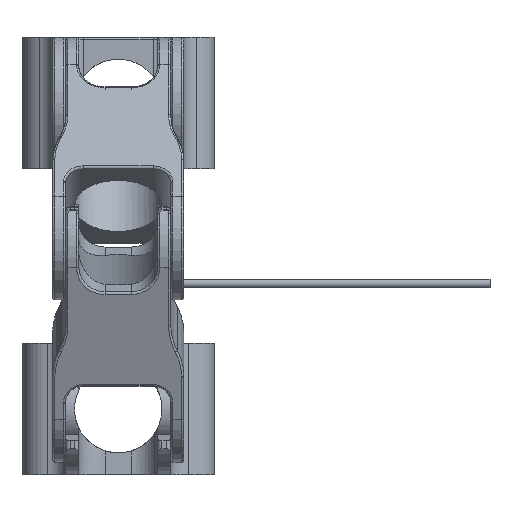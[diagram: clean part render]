
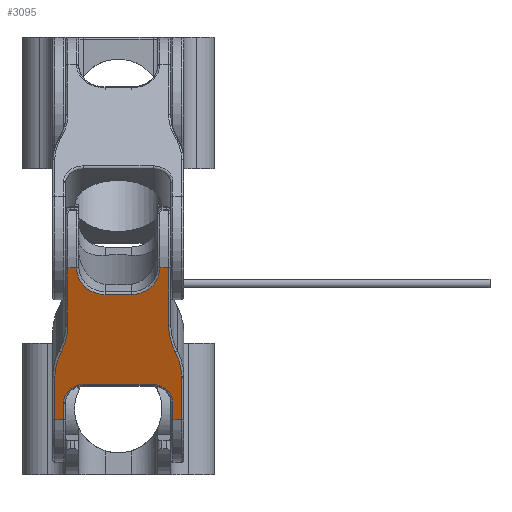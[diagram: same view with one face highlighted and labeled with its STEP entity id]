
A CAD part, front view. The second image highlights one B-rep face of the part: STEP entity #3095.
In plain terms, the highlighted planar face has unit normal (0, -0.938, -0.347) as drawn and (0, 1, 0) by its records, which use the part's own axes.
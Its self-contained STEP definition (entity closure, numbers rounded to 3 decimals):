
#2544=CARTESIAN_POINT('',(145.596,190.713,1.25));
#2545=VERTEX_POINT('',#2544);
#2588=CARTESIAN_POINT('',(143.596,190.713,1.25));
#2589=VERTEX_POINT('',#2588);
#2606=CARTESIAN_POINT('',(145.596,190.713,1.25));
#2607=DIRECTION('',(-1.0,0.0,0.0));
#2608=VECTOR('',#2607,2.);
#2609=LINE('',#2606,#2608);
#2610=EDGE_CURVE('',#2545,#2589,#2609,.T.);
#2652=CARTESIAN_POINT('',(141.346,190.713,3.5));
#2653=VERTEX_POINT('',#2652);
#2671=CARTESIAN_POINT('',(143.596,190.713,3.5));
#2672=DIRECTION('',(0.0,1.,0.0));
#2673=DIRECTION('',(-0.707,0.0,-0.707));
#2674=AXIS2_PLACEMENT_3D('',#2671,#2672,#2673);
#2675=CIRCLE('',#2674,2.25);
#2676=EDGE_CURVE('',#2589,#2653,#2675,.T.);
#2720=CARTESIAN_POINT('',(141.346,190.713,11.5));
#2721=VERTEX_POINT('',#2720);
#2738=CARTESIAN_POINT('',(141.346,190.713,3.5));
#2739=DIRECTION('',(0.0,0.0,1.0));
#2740=VECTOR('',#2739,8.);
#2741=LINE('',#2738,#2740);
#2742=EDGE_CURVE('',#2653,#2721,#2741,.T.);
#2784=CARTESIAN_POINT('',(143.596,190.713,13.75));
#2785=VERTEX_POINT('',#2784);
#2803=CARTESIAN_POINT('',(143.596,190.713,11.5));
#2804=DIRECTION('',(0.0,1.,0.0));
#2805=DIRECTION('',(-0.707,0.0,0.707));
#2806=AXIS2_PLACEMENT_3D('',#2803,#2804,#2805);
#2807=CIRCLE('',#2806,2.25);
#2808=EDGE_CURVE('',#2721,#2785,#2807,.T.);
#2852=CARTESIAN_POINT('',(145.596,190.713,13.75));
#2853=VERTEX_POINT('',#2852);
#2870=CARTESIAN_POINT('',(143.596,190.713,13.75));
#2871=DIRECTION('',(1.0,0.0,0.0));
#2872=VECTOR('',#2871,2.);
#2873=LINE('',#2870,#2872);
#2874=EDGE_CURVE('',#2785,#2853,#2873,.T.);
#2935=CARTESIAN_POINT('',(127.096,190.713,0.0));
#2936=DIRECTION('',(0.0,1.0,0.0));
#2937=DIRECTION('',(0.0,0.0,1.0));
#2938=AXIS2_PLACEMENT_3D('',#2935,#2936,#2937);
#2939=PLANE('',#2938);
#2940=ORIENTED_EDGE('',*,*,#2874,.F.);
#2941=ORIENTED_EDGE('',*,*,#2808,.F.);
#2942=ORIENTED_EDGE('',*,*,#2742,.F.);
#2943=ORIENTED_EDGE('',*,*,#2676,.F.);
#2944=ORIENTED_EDGE('',*,*,#2610,.F.);
#2945=CARTESIAN_POINT('',(145.596,190.713,0.25));
#2946=VERTEX_POINT('',#2945);
#2947=CARTESIAN_POINT('',(145.596,190.713,0.25));
#2948=DIRECTION('',(0.0,0.0,1.0));
#2949=VECTOR('',#2948,1.);
#2950=LINE('',#2947,#2949);
#2951=EDGE_CURVE('',#2946,#2545,#2950,.T.);
#2952=ORIENTED_EDGE('',*,*,#2951,.F.);
#2953=CARTESIAN_POINT('',(140.42,190.713,0.25));
#2954=VERTEX_POINT('',#2953);
#2955=CARTESIAN_POINT('',(140.42,190.713,0.25));
#2956=DIRECTION('',(1.0,0.0,0.0));
#2957=VECTOR('',#2956,5.176);
#2958=LINE('',#2955,#2957);
#2959=EDGE_CURVE('',#2954,#2946,#2958,.T.);
#2960=ORIENTED_EDGE('',*,*,#2959,.F.);
#2961=CARTESIAN_POINT('',(137.38,190.713,0.973));
#2962=VERTEX_POINT('',#2961);
#2963=CARTESIAN_POINT('',(140.42,190.713,7.));
#2964=DIRECTION('',(0.0,-1.,0.0));
#2965=DIRECTION('',(-0.231,0.0,-0.973));
#2966=AXIS2_PLACEMENT_3D('',#2963,#2964,#2965);
#2967=CIRCLE('',#2966,6.75);
#2968=EDGE_CURVE('',#2962,#2954,#2967,.T.);
#2969=ORIENTED_EDGE('',*,*,#2968,.F.);
#2970=CARTESIAN_POINT('',(134.115,190.713,1.75));
#2971=VERTEX_POINT('',#2970);
#2972=CARTESIAN_POINT('',(134.115,190.713,-5.5));
#2973=DIRECTION('',(0.0,1.0,0.0));
#2974=DIRECTION('',(0.231,0.0,0.973));
#2975=AXIS2_PLACEMENT_3D('',#2972,#2973,#2974);
#2976=CIRCLE('',#2975,7.25);
#2977=EDGE_CURVE('',#2971,#2962,#2976,.T.);
#2978=ORIENTED_EDGE('',*,*,#2977,.F.);
#2979=CARTESIAN_POINT('',(127.096,190.713,1.75));
#2980=VERTEX_POINT('',#2979);
#2981=CARTESIAN_POINT('',(127.096,190.713,1.75));
#2982=DIRECTION('',(1.0,0.0,0.0));
#2983=VECTOR('',#2982,7.02);
#2984=LINE('',#2981,#2983);
#2985=EDGE_CURVE('',#2980,#2971,#2984,.T.);
#2986=ORIENTED_EDGE('',*,*,#2985,.F.);
#2987=CARTESIAN_POINT('',(127.096,190.713,2.75));
#2988=VERTEX_POINT('',#2987);
#2989=CARTESIAN_POINT('',(127.096,190.713,1.75));
#2990=DIRECTION('',(0.0,0.0,1.0));
#2991=VECTOR('',#2990,1.);
#2992=LINE('',#2989,#2991);
#2993=EDGE_CURVE('',#2980,#2988,#2992,.T.);
#2994=ORIENTED_EDGE('',*,*,#2993,.T.);
#2995=CARTESIAN_POINT('',(127.115,190.713,2.75));
#2996=VERTEX_POINT('',#2995);
#2997=CARTESIAN_POINT('',(127.115,190.713,2.75));
#2998=DIRECTION('',(-1.0,0.0,0.));
#2999=VECTOR('',#2998,0.02);
#3000=LINE('',#2997,#2999);
#3001=EDGE_CURVE('',#2996,#2988,#3000,.T.);
#3002=ORIENTED_EDGE('',*,*,#3001,.F.);
#3003=CARTESIAN_POINT('',(130.365,190.713,6.));
#3004=VERTEX_POINT('',#3003);
#3005=CARTESIAN_POINT('',(127.115,190.713,6.));
#3006=DIRECTION('',(0.0,1.,0.0));
#3007=DIRECTION('',(0.707,0.0,-0.707));
#3008=AXIS2_PLACEMENT_3D('',#3005,#3006,#3007);
#3009=CIRCLE('',#3008,3.25);
#3010=EDGE_CURVE('',#3004,#2996,#3009,.T.);
#3011=ORIENTED_EDGE('',*,*,#3010,.F.);
#3012=CARTESIAN_POINT('',(130.365,190.713,9.));
#3013=VERTEX_POINT('',#3012);
#3014=CARTESIAN_POINT('',(130.365,190.713,9.));
#3015=DIRECTION('',(0.0,0.0,-1.0));
#3016=VECTOR('',#3015,3.);
#3017=LINE('',#3014,#3016);
#3018=EDGE_CURVE('',#3013,#3004,#3017,.T.);
#3019=ORIENTED_EDGE('',*,*,#3018,.F.);
#3020=CARTESIAN_POINT('',(127.115,190.713,12.25));
#3021=VERTEX_POINT('',#3020);
#3022=CARTESIAN_POINT('',(127.115,190.713,9.));
#3023=DIRECTION('',(0.0,1.0,0.0));
#3024=DIRECTION('',(0.707,0.0,0.707));
#3025=AXIS2_PLACEMENT_3D('',#3022,#3023,#3024);
#3026=CIRCLE('',#3025,3.25);
#3027=EDGE_CURVE('',#3021,#3013,#3026,.T.);
#3028=ORIENTED_EDGE('',*,*,#3027,.F.);
#3029=CARTESIAN_POINT('',(127.096,190.713,12.25));
#3030=VERTEX_POINT('',#3029);
#3031=CARTESIAN_POINT('',(127.096,190.713,12.25));
#3032=DIRECTION('',(1.0,0.0,0.0));
#3033=VECTOR('',#3032,0.02);
#3034=LINE('',#3031,#3033);
#3035=EDGE_CURVE('',#3030,#3021,#3034,.T.);
#3036=ORIENTED_EDGE('',*,*,#3035,.F.);
#3037=CARTESIAN_POINT('',(127.096,190.713,13.25));
#3038=VERTEX_POINT('',#3037);
#3039=CARTESIAN_POINT('',(127.096,190.713,12.25));
#3040=DIRECTION('',(0.0,0.0,1.0));
#3041=VECTOR('',#3040,1.);
#3042=LINE('',#3039,#3041);
#3043=EDGE_CURVE('',#3030,#3038,#3042,.T.);
#3044=ORIENTED_EDGE('',*,*,#3043,.T.);
#3045=CARTESIAN_POINT('',(130.115,190.713,13.25));
#3046=VERTEX_POINT('',#3045);
#3047=CARTESIAN_POINT('',(130.115,190.713,13.25));
#3048=DIRECTION('',(-1.0,0.0,0.0));
#3049=VECTOR('',#3048,3.02);
#3050=LINE('',#3047,#3049);
#3051=EDGE_CURVE('',#3046,#3038,#3050,.T.);
#3052=ORIENTED_EDGE('',*,*,#3051,.F.);
#3053=CARTESIAN_POINT('',(134.115,190.713,13.25));
#3054=VERTEX_POINT('',#3053);
#3055=CARTESIAN_POINT('',(134.115,190.713,13.25));
#3056=DIRECTION('',(-1.,0.0,0.));
#3057=VECTOR('',#3056,4.);
#3058=LINE('',#3055,#3057);
#3059=EDGE_CURVE('',#3054,#3046,#3058,.T.);
#3060=ORIENTED_EDGE('',*,*,#3059,.F.);
#3061=CARTESIAN_POINT('',(137.38,190.713,14.027));
#3062=VERTEX_POINT('',#3061);
#3063=CARTESIAN_POINT('',(134.115,190.713,20.5));
#3064=DIRECTION('',(0.0,1.,0.0));
#3065=DIRECTION('',(0.231,0.0,-0.973));
#3066=AXIS2_PLACEMENT_3D('',#3063,#3064,#3065);
#3067=CIRCLE('',#3066,7.25);
#3068=EDGE_CURVE('',#3062,#3054,#3067,.T.);
#3069=ORIENTED_EDGE('',*,*,#3068,.F.);
#3070=CARTESIAN_POINT('',(140.42,190.713,14.75));
#3071=VERTEX_POINT('',#3070);
#3072=CARTESIAN_POINT('',(140.42,190.713,8.));
#3073=DIRECTION('',(0.0,-1.,0.0));
#3074=DIRECTION('',(-0.231,0.0,0.973));
#3075=AXIS2_PLACEMENT_3D('',#3072,#3073,#3074);
#3076=CIRCLE('',#3075,6.75);
#3077=EDGE_CURVE('',#3071,#3062,#3076,.T.);
#3078=ORIENTED_EDGE('',*,*,#3077,.F.);
#3079=CARTESIAN_POINT('',(145.596,190.713,14.75));
#3080=VERTEX_POINT('',#3079);
#3081=CARTESIAN_POINT('',(145.596,190.713,14.75));
#3082=DIRECTION('',(-1.0,0.0,0.0));
#3083=VECTOR('',#3082,5.176);
#3084=LINE('',#3081,#3083);
#3085=EDGE_CURVE('',#3080,#3071,#3084,.T.);
#3086=ORIENTED_EDGE('',*,*,#3085,.F.);
#3087=CARTESIAN_POINT('',(145.596,190.713,13.75));
#3088=DIRECTION('',(0.0,0.0,1.0));
#3089=VECTOR('',#3088,1.);
#3090=LINE('',#3087,#3089);
#3091=EDGE_CURVE('',#2853,#3080,#3090,.T.);
#3092=ORIENTED_EDGE('',*,*,#3091,.F.);
#3093=EDGE_LOOP('',(#2940,#2941,#2942,#2943,#2944,#2952,#2960,#2969,#2978,#2986,#2994,#3002,#3011,#3019,#3028,#3036,#3044,#3052,#3060,#3069,#3078,#3086,#3092));
#3094=FACE_OUTER_BOUND('',#3093,.T.);
#3095=ADVANCED_FACE('',(#3094),#2939,.T.);
